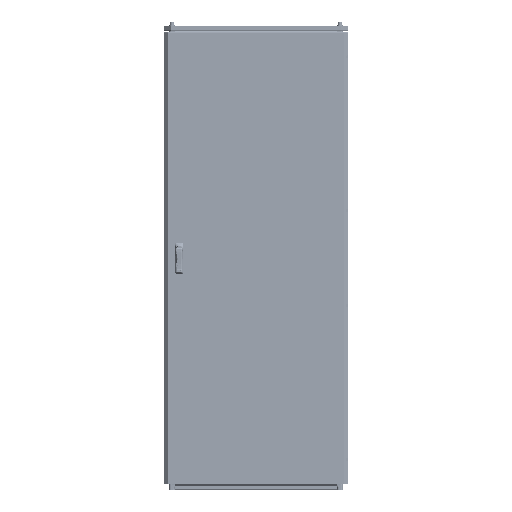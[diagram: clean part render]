
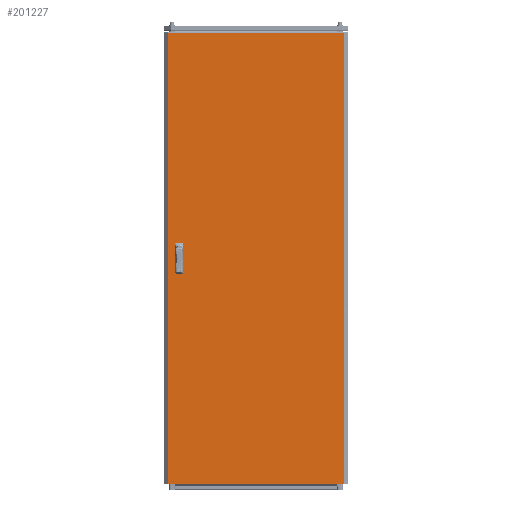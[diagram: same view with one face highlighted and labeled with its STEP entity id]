
A CAD part, top view. The second image highlights one B-rep face of the part: STEP entity #201227.
In plain terms, the highlighted planar face has unit normal (0, 0, 1).
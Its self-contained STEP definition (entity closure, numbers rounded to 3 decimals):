
#1831 = CARTESIAN_POINT ( 'NONE',  ( -377.875, 969.5, 0. ) ) ;
#4798 = VERTEX_POINT ( 'NONE', #208977 ) ;
#6362 = CARTESIAN_POINT ( 'NONE',  ( -342.5, 12.5, 0. ) ) ;
#6653 = LINE ( 'NONE', #60748, #206831 ) ;
#9724 = VERTEX_POINT ( 'NONE', #74797 ) ;
#20112 = DIRECTION ( 'NONE',  ( 0., -1., 0. ) ) ;
#23359 = LINE ( 'NONE', #30625, #149375 ) ;
#23562 = DIRECTION ( 'NONE',  ( -1., 0., 0. ) ) ;
#24613 = VERTEX_POINT ( 'NONE', #71713 ) ;
#26937 = DIRECTION ( 'NONE',  ( 1., 0., 0. ) ) ;
#30625 = CARTESIAN_POINT ( 'NONE',  ( -317.5, 12.5, 0. ) ) ;
#32864 = FACE_OUTER_BOUND ( 'NONE', #143884, .T. ) ;
#36600 = VECTOR ( 'NONE', #23562, 1000. ) ;
#39967 = EDGE_CURVE ( 'NONE', #67889, #105590, #46206, .T. ) ;
#42649 = ORIENTED_EDGE ( 'NONE', *, *, #116896, .F. ) ;
#44700 = ORIENTED_EDGE ( 'NONE', *, *, #160422, .F. ) ;
#46206 = LINE ( 'NONE', #6362, #144616 ) ;
#46747 = CARTESIAN_POINT ( 'NONE',  ( -317.5, 62.5, 0. ) ) ;
#54051 = CARTESIAN_POINT ( 'NONE',  ( -317.5, -62.5, 0. ) ) ;
#56832 = CARTESIAN_POINT ( 'NONE',  ( -342.5, 62.5, 0. ) ) ;
#57096 = VERTEX_POINT ( 'NONE', #201970 ) ;
#60748 = CARTESIAN_POINT ( 'NONE',  ( -377.875, -969.5, 0. ) ) ;
#64457 = EDGE_CURVE ( 'NONE', #105590, #79144, #23359, .T. ) ;
#65943 = CARTESIAN_POINT ( 'NONE',  ( 377.875, -969.5, 0. ) ) ;
#67561 = CARTESIAN_POINT ( 'NONE',  ( -377.875, -969.5, 0. ) ) ;
#67889 = VERTEX_POINT ( 'NONE', #182447 ) ;
#68969 = FACE_BOUND ( 'NONE', #206409, .T. ) ;
#70182 = DIRECTION ( 'NONE',  ( -1., 0., 0. ) ) ;
#70634 = EDGE_CURVE ( 'NONE', #196305, #4798, #126688, .T. ) ;
#71713 = CARTESIAN_POINT ( 'NONE',  ( -342.5, 62.5, 0. ) ) ;
#74797 = CARTESIAN_POINT ( 'NONE',  ( -317.5, -12.5, 0. ) ) ;
#79144 = VERTEX_POINT ( 'NONE', #46747 ) ;
#82839 = VECTOR ( 'NONE', #145757, 1000. ) ;
#86563 = LINE ( 'NONE', #65943, #82839 ) ;
#86583 = ORIENTED_EDGE ( 'NONE', *, *, #122292, .F. ) ;
#86618 = ORIENTED_EDGE ( 'NONE', *, *, #64457, .F. ) ;
#88417 = VERTEX_POINT ( 'NONE', #1831 ) ;
#90183 = CARTESIAN_POINT ( 'NONE',  ( -342.5, -12.5, 0. ) ) ;
#90531 = DIRECTION ( 'NONE',  ( 1., 0., 0. ) ) ;
#92507 = VERTEX_POINT ( 'NONE', #90183 ) ;
#95559 = ORIENTED_EDGE ( 'NONE', *, *, #70634, .F. ) ;
#96230 = ORIENTED_EDGE ( 'NONE', *, *, #200986, .F. ) ;
#98954 = ORIENTED_EDGE ( 'NONE', *, *, #240737, .T. ) ;
#101945 = DIRECTION ( 'NONE',  ( 0., -1., 0. ) ) ;
#104045 = LINE ( 'NONE', #200647, #211503 ) ;
#105590 = VERTEX_POINT ( 'NONE', #197139 ) ;
#107714 = DIRECTION ( 'NONE',  ( 0., -1., 0. ) ) ;
#111104 = CARTESIAN_POINT ( 'NONE',  ( -342.5, -62.5, 0. ) ) ;
#111360 = PLANE ( 'NONE',  #121936 ) ;
#111669 = EDGE_CURVE ( 'NONE', #57096, #154722, #86563, .T. ) ;
#114515 = CARTESIAN_POINT ( 'NONE',  ( 377.875, 969.5, 0. ) ) ;
#116602 = LINE ( 'NONE', #155298, #223025 ) ;
#116896 = EDGE_CURVE ( 'NONE', #24613, #67889, #168263, .T. ) ;
#117359 = VERTEX_POINT ( 'NONE', #67561 ) ;
#121936 = AXIS2_PLACEMENT_3D ( 'NONE', #147491, #187397, #70182 ) ;
#122292 = EDGE_CURVE ( 'NONE', #79144, #24613, #233221, .T. ) ;
#122651 = CARTESIAN_POINT ( 'NONE',  ( -377.875, 969.5, 0. ) ) ;
#125632 = DIRECTION ( 'NONE',  ( -1., 0., 0. ) ) ;
#126688 = LINE ( 'NONE', #111104, #210432 ) ;
#143884 = EDGE_LOOP ( 'NONE', ( #227273, #169926, #197362, #98954 ) ) ;
#144616 = VECTOR ( 'NONE', #26937, 1000. ) ;
#144892 = CARTESIAN_POINT ( 'NONE',  ( -342.5, -12.5, 0. ) ) ;
#145757 = DIRECTION ( 'NONE',  ( 0., 1., 0. ) ) ;
#147491 = CARTESIAN_POINT ( 'NONE',  ( 0., 0., 0. ) ) ;
#147582 = VECTOR ( 'NONE', #213840, 1000. ) ;
#149295 = DIRECTION ( 'NONE',  ( 0., 1., 0. ) ) ;
#149375 = VECTOR ( 'NONE', #222781, 1000. ) ;
#150351 = EDGE_CURVE ( 'NONE', #9724, #92507, #220950, .T. ) ;
#154722 = VERTEX_POINT ( 'NONE', #114515 ) ;
#155298 = CARTESIAN_POINT ( 'NONE',  ( -342.5, -62.5, 0. ) ) ;
#160422 = EDGE_CURVE ( 'NONE', #92507, #196305, #116602, .T. ) ;
#164125 = ORIENTED_EDGE ( 'NONE', *, *, #150351, .F. ) ;
#168263 = LINE ( 'NONE', #247983, #198801 ) ;
#169926 = ORIENTED_EDGE ( 'NONE', *, *, #204251, .T. ) ;
#179203 = CARTESIAN_POINT ( 'NONE',  ( -342.5, -62.5, 0. ) ) ;
#180053 = ORIENTED_EDGE ( 'NONE', *, *, #39967, .F. ) ;
#181829 = LINE ( 'NONE', #122651, #36600 ) ;
#182447 = CARTESIAN_POINT ( 'NONE',  ( -342.5, 12.5, 0. ) ) ;
#187397 = DIRECTION ( 'NONE',  ( 0., 0., -1. ) ) ;
#196305 = VERTEX_POINT ( 'NONE', #179203 ) ;
#197139 = CARTESIAN_POINT ( 'NONE',  ( -317.5, 12.5, 0. ) ) ;
#197362 = ORIENTED_EDGE ( 'NONE', *, *, #221785, .T. ) ;
#198458 = VECTOR ( 'NONE', #125632, 1000. ) ;
#198801 = VECTOR ( 'NONE', #107714, 1000. ) ;
#200647 = CARTESIAN_POINT ( 'NONE',  ( -377.875, -969.5, 0. ) ) ;
#200986 = EDGE_CURVE ( 'NONE', #4798, #9724, #230424, .T. ) ;
#201227 = ADVANCED_FACE ( 'NONE', ( #68969, #206647, #32864 ), #111360, .F. ) ;
#201970 = CARTESIAN_POINT ( 'NONE',  ( 377.875, -969.5, 0. ) ) ;
#204251 = EDGE_CURVE ( 'NONE', #154722, #88417, #181829, .T. ) ;
#206409 = EDGE_LOOP ( 'NONE', ( #86583, #86618, #180053, #42649 ) ) ;
#206647 = FACE_BOUND ( 'NONE', #239020, .T. ) ;
#206831 = VECTOR ( 'NONE', #101945, 1000. ) ;
#208977 = CARTESIAN_POINT ( 'NONE',  ( -317.5, -62.5, 0. ) ) ;
#210432 = VECTOR ( 'NONE', #90531, 1000. ) ;
#211503 = VECTOR ( 'NONE', #240562, 1000. ) ;
#212357 = VECTOR ( 'NONE', #149295, 1000. ) ;
#213840 = DIRECTION ( 'NONE',  ( -1., 0., 0. ) ) ;
#220950 = LINE ( 'NONE', #144892, #198458 ) ;
#221785 = EDGE_CURVE ( 'NONE', #88417, #117359, #6653, .T. ) ;
#222781 = DIRECTION ( 'NONE',  ( 0., 1., 0. ) ) ;
#223025 = VECTOR ( 'NONE', #20112, 1000. ) ;
#227273 = ORIENTED_EDGE ( 'NONE', *, *, #111669, .T. ) ;
#230424 = LINE ( 'NONE', #54051, #212357 ) ;
#233221 = LINE ( 'NONE', #56832, #147582 ) ;
#239020 = EDGE_LOOP ( 'NONE', ( #164125, #96230, #95559, #44700 ) ) ;
#240562 = DIRECTION ( 'NONE',  ( 1., 0., 0. ) ) ;
#240737 = EDGE_CURVE ( 'NONE', #117359, #57096, #104045, .T. ) ;
#247983 = CARTESIAN_POINT ( 'NONE',  ( -342.5, 12.5, 0. ) ) ;
